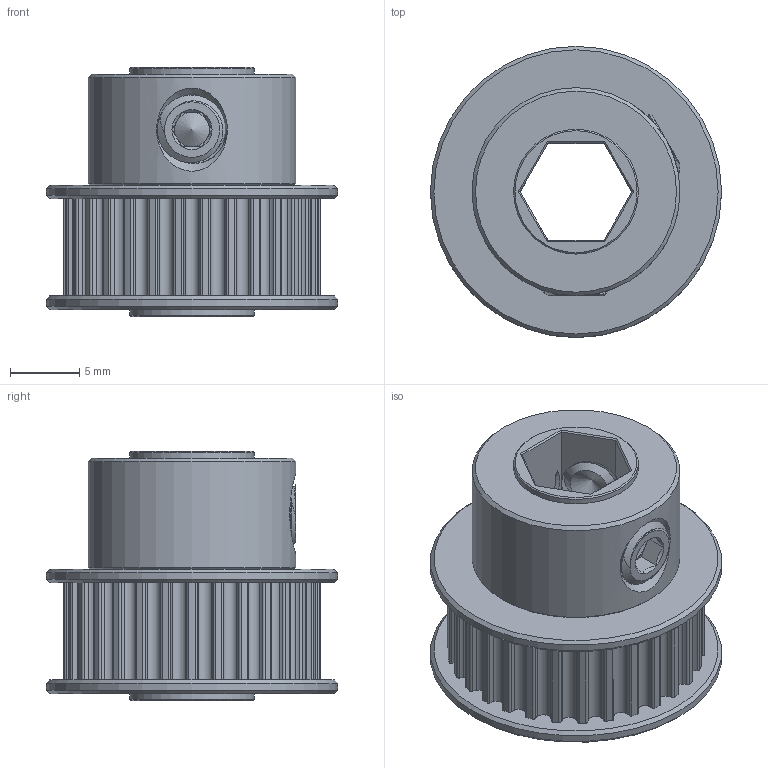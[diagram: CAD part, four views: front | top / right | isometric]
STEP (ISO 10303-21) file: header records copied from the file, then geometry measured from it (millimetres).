
FILE_DESCRIPTION(/* description */ (''),/* implementation_level */ '2;1');
FILE_NAME(/* name */ '3422-4008-0030.step',/* time_stamp */ '2025-12-22T16:41:37-06:00',/* author */ (''),/* organization */ (''),/* preprocessor_version */ 'ST-DEVELOPER v20.1',/* originating_system */ 'Autodesk Translation Framework v14.21.0.0',/* authorisation */ '');
FILE_SCHEMA (('AUTOMOTIVE_DESIGN { 1 0 10303 214 3 1 1 }'));
Length unit declared in the file: millimetre
Products named in the file (2): __3422-4008-0030; 2806-0005-0004
Assembly tree (2 placements, depth 2):
  __3422-4008-0030
    2806-0005-0004  x2
Bounding box: 21 x 21 x 18 mm (x, y, z)
Volume: 3106.9 mm3; surface area: 4044.7 mm2
Topology: 6 solids, 6 shells, 424 faces, 1111 edges, 706 vertices
Faces by surface type: cylinder 251, plane 81, cone 76, bspline 16
Full cylindrical faces by diameter (mm): 3.961 x8, 4 x6, 5 x10, 9 x2, 15 x1, 21 x2
Entity records: 24258 total; most frequent: CARTESIAN_POINT 14325, DIRECTION 2211, ORIENTED_EDGE 2058, EDGE_CURVE 1029, AXIS2_PLACEMENT_3D 903, VERTEX_POINT 659, CIRCLE 513, EDGE_LOOP 412
